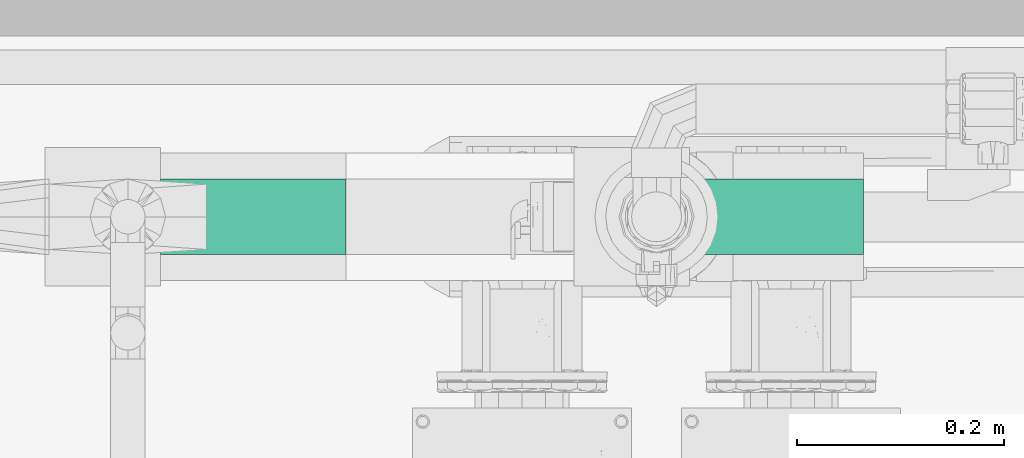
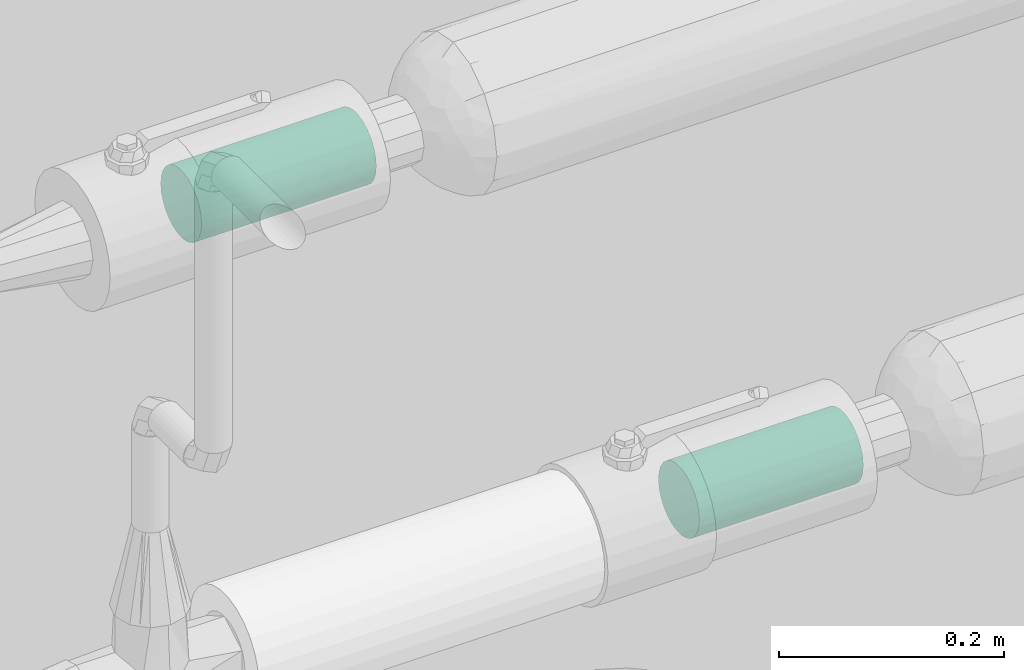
# One storey, part 75 of 94: 2 flow segments.
"""IFC2X3 building model written with IfcOpenShell, lengths in millimetres."""

from ifc_helpers import new_model, entity, si_unit, converted_unit, derived_unit, direction, frame, origin, origin_2d_with_axis, place, context, subcontext, project, spatial, circle, extrude, type_object, element, save


model = new_model("IFC2X3")

# Units and contexts
model_context = context("Model", 3, precision=0.01, world=origin(), true_north=direction((6.123031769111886e-17, 1.0)))
body_context = subcontext(model_context, "Body", "Model", "MODEL_VIEW")
ifc_project = project(units=[si_unit("LENGTHUNIT", "METRE", prefix="MILLI"), si_unit("AREAUNIT", "SQUARE_METRE"), si_unit("VOLUMEUNIT", "CUBIC_METRE"), converted_unit("PLANEANGLEUNIT", "DEGREE", entity("IfcRatioMeasure", 0.017453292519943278), si_unit("PLANEANGLEUNIT", "RADIAN"), dimensions=[0, 0, 0, 0, 0, 0, 0]), si_unit("MASSUNIT", "GRAM", prefix="KILO"), derived_unit("MASSDENSITYUNIT", [(si_unit("MASSUNIT", "GRAM", prefix="KILO"), 1), (si_unit("LENGTHUNIT", "METRE"), -3)]), derived_unit("IONCONCENTRATIONUNIT", [(si_unit("MASSUNIT", "GRAM", prefix="KILO"), 1), (si_unit("LENGTHUNIT", "METRE"), -3)]), derived_unit("MOMENTOFINERTIAUNIT", [(si_unit("LENGTHUNIT", "METRE"), 4)]), si_unit("TIMEUNIT", "SECOND"), si_unit("FREQUENCYUNIT", "HERTZ"), si_unit("THERMODYNAMICTEMPERATUREUNIT", "DEGREE_CELSIUS"), derived_unit("THERMALTRANSMITTANCEUNIT", [(si_unit("MASSUNIT", "GRAM", prefix="KILO"), 1), (si_unit("THERMODYNAMICTEMPERATUREUNIT", "KELVIN"), -1), (si_unit("TIMEUNIT", "SECOND"), -3)]), derived_unit("THERMALCONDUCTANCEUNIT", [(si_unit("MASSUNIT", "GRAM", prefix="KILO"), 1), (si_unit("THERMODYNAMICTEMPERATUREUNIT", "KELVIN"), -1), (si_unit("TIMEUNIT", "SECOND"), -3), (si_unit("LENGTHUNIT", "METRE"), 1)]), derived_unit("VOLUMETRICFLOWRATEUNIT", [(si_unit("LENGTHUNIT", "METRE"), 3), (si_unit("TIMEUNIT", "SECOND"), -1)]), derived_unit("MASSFLOWRATEUNIT", [(si_unit("MASSUNIT", "GRAM", prefix="KILO"), 1), (si_unit("TIMEUNIT", "SECOND"), -1)]), derived_unit("ROTATIONALFREQUENCYUNIT", [(si_unit("TIMEUNIT", "SECOND"), -1)]), si_unit("ELECTRICCURRENTUNIT", "AMPERE"), si_unit("ELECTRICVOLTAGEUNIT", "VOLT"), si_unit("POWERUNIT", "WATT"), si_unit("FORCEUNIT", "NEWTON", prefix="KILO"), si_unit("ILLUMINANCEUNIT", "LUX"), si_unit("LUMINOUSFLUXUNIT", "LUMEN"), si_unit("LUMINOUSINTENSITYUNIT", "CANDELA"), derived_unit("USERDEFINED", [(si_unit("MASSUNIT", "GRAM", prefix="KILO"), -1), (si_unit("LENGTHUNIT", "METRE"), -2), (si_unit("TIMEUNIT", "SECOND"), 3), (si_unit("LUMINOUSFLUXUNIT", "LUMEN"), 1)]), derived_unit("USERDEFINED", [(si_unit("MASSUNIT", "GRAM", prefix="KILO"), 1), (si_unit("TIMEUNIT", "SECOND"), -3), (si_unit("LENGTHUNIT", "METRE"), 3), (si_unit("ELECTRICCURRENTUNIT", "AMPERE"), -2)]), derived_unit("SOUNDPOWERUNIT", [(si_unit("MASSUNIT", "GRAM", prefix="KILO"), 1), (si_unit("TIMEUNIT", "SECOND"), -3), (si_unit("LENGTHUNIT", "METRE"), 2)]), derived_unit("SOUNDPRESSUREUNIT", [(si_unit("MASSUNIT", "GRAM", prefix="KILO"), 1), (si_unit("LENGTHUNIT", "METRE"), -1), (si_unit("TIMEUNIT", "SECOND"), -2)]), derived_unit("LINEARVELOCITYUNIT", [(si_unit("LENGTHUNIT", "METRE"), 1), (si_unit("TIMEUNIT", "SECOND"), -1)]), si_unit("PRESSUREUNIT", "PASCAL"), derived_unit("USERDEFINED", [(si_unit("MASSUNIT", "GRAM", prefix="KILO"), 1), (si_unit("LENGTHUNIT", "METRE"), -2), (si_unit("TIMEUNIT", "SECOND"), -2)]), derived_unit("LINEARFORCEUNIT", [(si_unit("MASSUNIT", "GRAM", prefix="KILO"), 1), (si_unit("TIMEUNIT", "SECOND"), -2)]), derived_unit("PLANARFORCEUNIT", [(si_unit("MASSUNIT", "GRAM", prefix="KILO"), 1), (si_unit("LENGTHUNIT", "METRE"), -1), (si_unit("TIMEUNIT", "SECOND"), -2)]), derived_unit("SPECIFICHEATCAPACITYUNIT", [(si_unit("THERMODYNAMICTEMPERATUREUNIT", "KELVIN"), -1), (si_unit("LENGTHUNIT", "METRE"), 2), (si_unit("TIMEUNIT", "SECOND"), -2)]), derived_unit("HEATINGVALUEUNIT", [(si_unit("LENGTHUNIT", "METRE"), 2), (si_unit("TIMEUNIT", "SECOND"), -2)]), derived_unit("VAPORPERMEABILITYUNIT", [(si_unit("LENGTHUNIT", "METRE"), -1), (si_unit("TIMEUNIT", "SECOND"), 1)]), derived_unit("DYNAMICVISCOSITYUNIT", [(si_unit("MASSUNIT", "GRAM", prefix="KILO"), 1), (si_unit("TIMEUNIT", "SECOND"), -1), (si_unit("LENGTHUNIT", "METRE"), -1)]), derived_unit("THERMALEXPANSIONCOEFFICIENTUNIT", [(si_unit("THERMODYNAMICTEMPERATUREUNIT", "KELVIN"), -1)]), derived_unit("MODULUSOFELASTICITYUNIT", [(si_unit("MASSUNIT", "GRAM", prefix="KILO"), 1), (si_unit("LENGTHUNIT", "METRE"), -1), (si_unit("TIMEUNIT", "SECOND"), -2)]), derived_unit("ISOTHERMALMOISTURECAPACITYUNIT", [(si_unit("LENGTHUNIT", "METRE"), 3), (si_unit("MASSUNIT", "GRAM", prefix="KILO"), -1)]), derived_unit("MOISTUREDIFFUSIVITYUNIT", [(si_unit("TIMEUNIT", "SECOND"), -1), (si_unit("LENGTHUNIT", "METRE"), 2)])], contexts=[model_context])

# Site, building, storey
site_placement = place(None, origin())
site = spatial("IfcSite", under=ifc_project, at=site_placement, Name="Default", CompositionType="ELEMENT")
building_placement = place(site_placement, origin())
building = spatial("IfcBuilding", under=site, at=building_placement, CompositionType="ELEMENT")
storey_placement = place(building_placement, origin())
storey = spatial("IfcBuildingStorey", under=building, at=storey_placement, Name="Niveau 0", CompositionType="ELEMENT", Elevation=0.0)

# Flow segments
pipe_segment_type = type_object("IfcPipeSegmentType", Name="Canalisation:Standard", PredefinedType="NOTDEFINED")
flow_segment_1_placement = place(storey_placement, origin())
element("IfcFlowSegment", 1, at=flow_segment_1_placement, inside=storey, type_object=pipe_segment_type, Name="Canalisation:Standard", ObjectType="Canalisation:Standard", context=body_context, shape_type="SweptSolid", body=[
    extrude(circle(Radius=36.5125, at=origin_2d_with_axis()), frame((-10340.525865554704, 9922.470546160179, 877.6034575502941), z_axis=(1.0, 0.0, 0.0), x_axis=(0.0, 1.0, 0.0)), (0.0, 0.0, 1.0), 168.3799999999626),
])
flow_segment_2_placement = place(storey_placement, origin())
element("IfcFlowSegment", 2, at=flow_segment_2_placement, inside=storey, type_object=pipe_segment_type, Name="Canalisation:Standard", ObjectType="Canalisation:Standard", context=body_context, shape_type="SweptSolid", body=[
    extrude(circle(Radius=36.5125, at=origin_2d_with_axis()), frame((-10851.613218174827, 9922.470546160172, 1377.6034575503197), z_axis=(1.0, 0.0, 0.0), x_axis=(0.0, 1.0, 0.0)), (0.0, 0.0, 1.0), 179.4673526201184),
])

save(model, "model.ifc")
